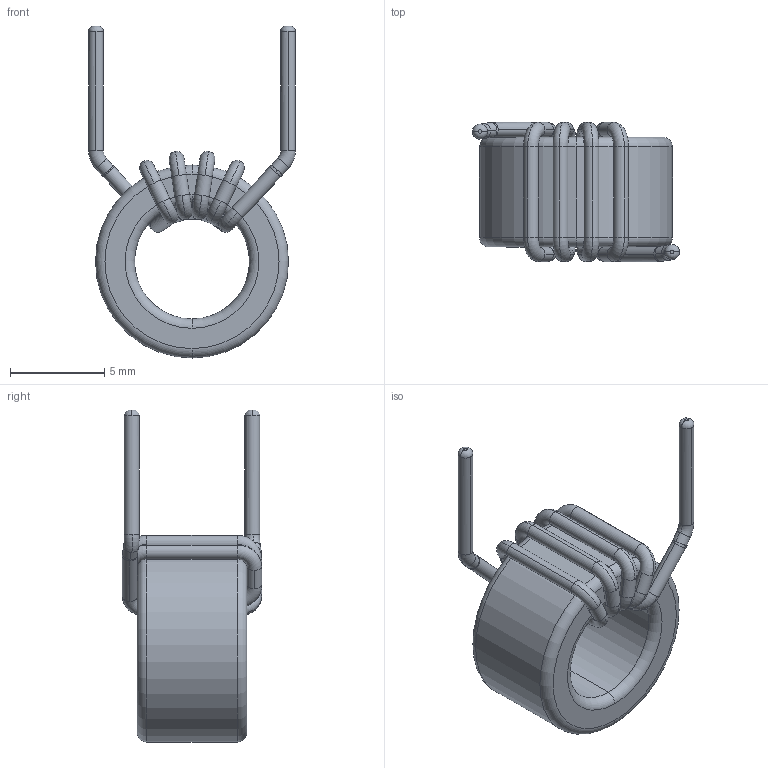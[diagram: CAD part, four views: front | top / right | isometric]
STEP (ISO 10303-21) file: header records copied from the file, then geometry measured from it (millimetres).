
FILE_DESCRIPTION (( 'STEP AP203' ), '1' );
FILE_NAME ('C-14123-00.STEP', '2021-01-09T07:56:20', ( 'Windows User' ), ( '' ), 'SwSTEP 2.0', 'SolidWorks 2015', '' );
FILE_SCHEMA (( 'CONFIG_CONTROL_DESIGN' ));
Length unit declared in the file: inch
Products named in the file (3): C-14123-00 - COIL; C-14123-00; C-14123-00 - CORE
Assembly tree (2 placements, depth 2):
  C-14123-00
    C-14123-00 - CORE
    C-14123-00 - COIL
Bounding box: 10.99 x 7.4 x 17.63 mm (x, y, z)
Volume: 353.1 mm3; surface area: 627.7 mm2
Topology: 2 solids, 2 shells, 110 faces, 302 edges, 196 vertices
Faces by surface type: torus 56, cylinder 40, bspline 10, plane 4
Entity records: 4749 total; most frequent: CARTESIAN_POINT 1515, DIRECTION 698, ORIENTED_EDGE 604, AXIS2_PLACEMENT_3D 329, EDGE_CURVE 302, CIRCLE 224, VERTEX_POINT 196, EDGE_LOOP 120
